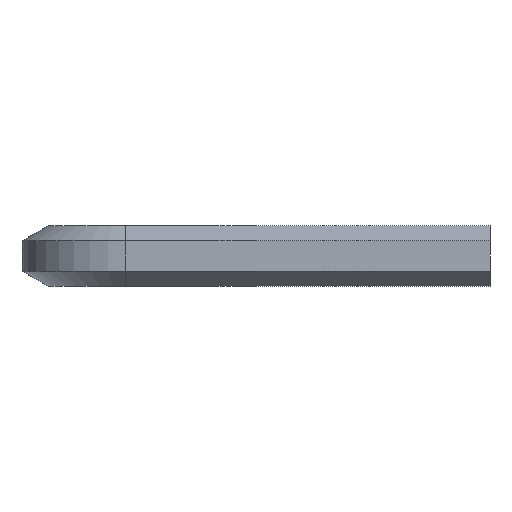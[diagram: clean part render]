
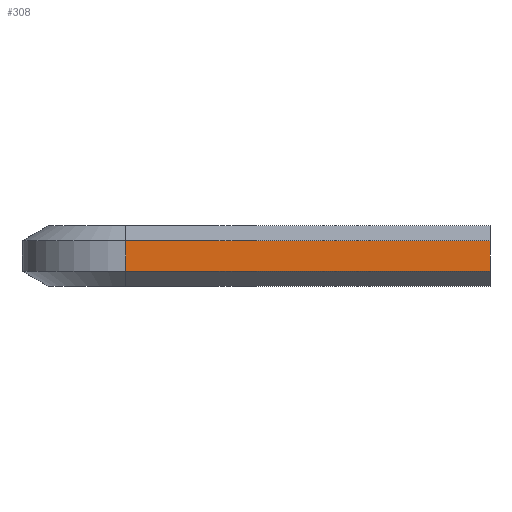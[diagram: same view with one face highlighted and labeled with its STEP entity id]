
A CAD part, left-side view. The second image highlights one B-rep face of the part: STEP entity #308.
In plain terms, the highlighted planar face has unit normal (-1, 0, 0).
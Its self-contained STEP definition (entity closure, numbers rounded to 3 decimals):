
#32=FACE_OUTER_BOUND('',#52,.T.);
#52=EDGE_LOOP('',(#225,#226,#227,#228));
#68=LINE('',#465,#104);
#82=LINE('',#492,#118);
#83=LINE('',#494,#119);
#84=LINE('',#495,#120);
#104=VECTOR('',#374,10.);
#118=VECTOR('',#396,10.);
#119=VECTOR('',#399,10.);
#120=VECTOR('',#400,10.);
#140=VERTEX_POINT('',#462);
#141=VERTEX_POINT('',#464);
#149=VERTEX_POINT('',#488);
#150=VERTEX_POINT('',#490);
#164=EDGE_CURVE('',#140,#141,#68,.T.);
#178=EDGE_CURVE('',#149,#150,#82,.T.);
#179=EDGE_CURVE('',#140,#149,#83,.T.);
#180=EDGE_CURVE('',#141,#150,#84,.T.);
#225=ORIENTED_EDGE('',*,*,#179,.T.);
#226=ORIENTED_EDGE('',*,*,#178,.T.);
#227=ORIENTED_EDGE('',*,*,#180,.F.);
#228=ORIENTED_EDGE('',*,*,#164,.F.);
#294=PLANE('',#348);
#308=ADVANCED_FACE('',(#32),#294,.T.);
#348=AXIS2_PLACEMENT_3D('',#493,#397,#398);
#374=DIRECTION('',(0.,-1.,0.));
#396=DIRECTION('',(0.,-1.,0.));
#397=DIRECTION('center_axis',(-1.,0.,0.));
#398=DIRECTION('ref_axis',(0.,0.,-1.));
#399=DIRECTION('',(0.,0.,-1.));
#400=DIRECTION('',(0.,0.,-1.));
#462=CARTESIAN_POINT('',(0.,14.,0.577));
#464=CARTESIAN_POINT('',(0.,0.,0.577));
#465=CARTESIAN_POINT('',(0.,14.,0.577));
#488=CARTESIAN_POINT('',(0.,14.,-0.577));
#490=CARTESIAN_POINT('',(0.,0.,-0.577));
#492=CARTESIAN_POINT('',(0.,14.,-0.577));
#493=CARTESIAN_POINT('Origin',(0.,14.,0.577));
#494=CARTESIAN_POINT('',(0.,14.,-0.577));
#495=CARTESIAN_POINT('',(0.,0.,-0.577));
